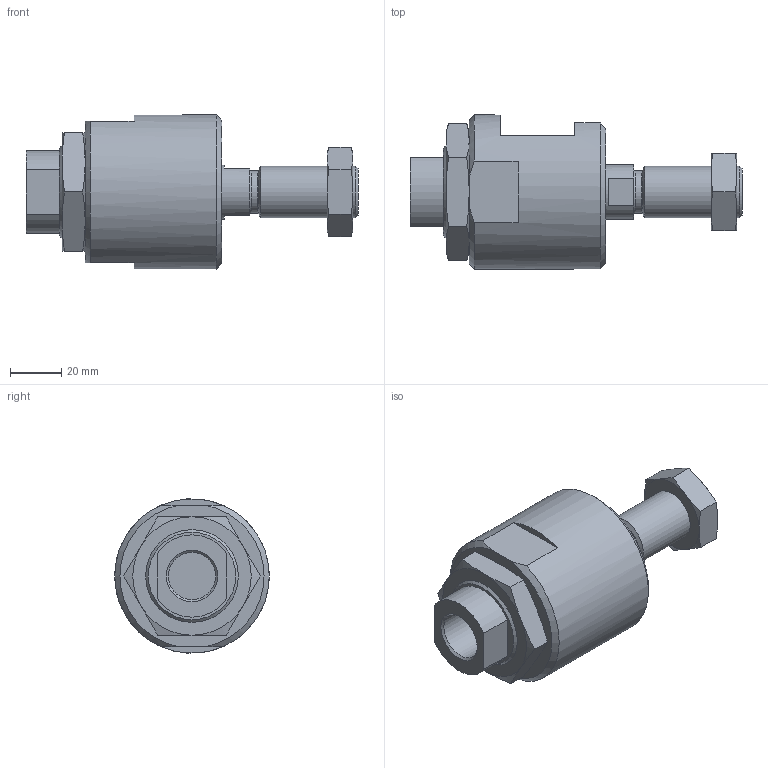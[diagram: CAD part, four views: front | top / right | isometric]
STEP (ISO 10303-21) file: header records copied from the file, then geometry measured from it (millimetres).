
FILE_DESCRIPTION( ( 'STEP AP203' ), '1' );
FILE_NAME( 'C:/Temp/Ganter_Step_05_03_2020/data/3_6/gn240_2/Rapid plug-in coupling GN 240.2-M20x1,5 (0).stp', '2020-03-12T14:08:27', ( 'License CC BY-ND 4.0' ), ( 'CADENAS' ), ' ', 'PARTsolutions', ' ' );
FILE_SCHEMA( ( 'CONFIG_CONTROL_DESIGN' ) );
Length unit declared in the file: millimetre
Products named in the file (4): Rapid plug-in coupling GN 240.2-M20x1,5 (0); _Rapid plug-in coupling GN 240.2-M20x1,5 (0)-1; _Rapid plug-in coupling GN 240.2-M20x1,5 (0)-5; _Rapid plug-in coupling GN 240.2-M20x1,5 (0)-4
Assembly tree (3 placements, depth 2):
  Rapid plug-in coupling GN 240.2-M20x1,5 (0)
    _Rapid plug-in coupling GN 240.2-M20x1,5 (0)-1
    _Rapid plug-in coupling GN 240.2-M20x1,5 (0)-5
    _Rapid plug-in coupling GN 240.2-M20x1,5 (0)-4
Bounding box: 129 x 60 x 59.86 mm (x, y, z)
Volume: 154024.1 mm3; surface area: 36769 mm2
Topology: 3 solids, 3 shells, 92 faces, 201 edges, 123 vertices
Faces by surface type: plane 42, cone 35, cylinder 12, torus 2, sphere 1
Full cylindrical faces by diameter (mm): 16.4 x1, 18.376 x2, 20 x1, 21 x1, 37.5 x2, 60 x1
Entity records: 2671 total; most frequent: CARTESIAN_POINT 657, DIRECTION 390, ORIENTED_EDGE 358, EDGE_CURVE 179, AXIS2_PLACEMENT_3D 169, EDGE_LOOP 123, VERTEX_POINT 120, FACE_OUTER_BOUND 103
